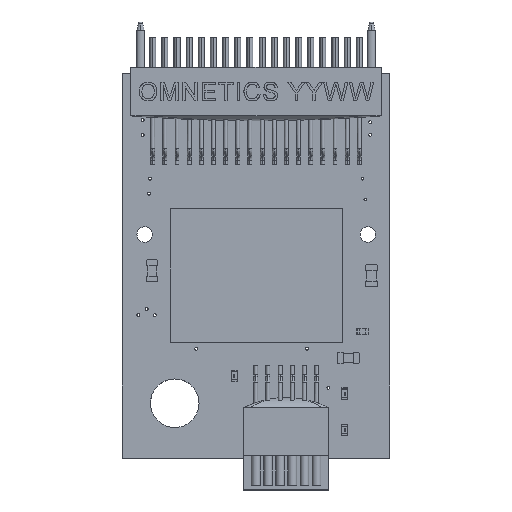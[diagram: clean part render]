
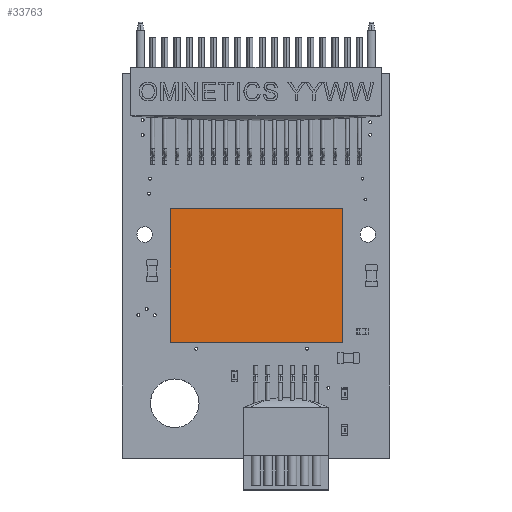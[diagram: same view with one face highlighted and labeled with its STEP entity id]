
A CAD part, top view. The second image highlights one B-rep face of the part: STEP entity #33763.
In plain terms, the highlighted planar face has unit normal (0, 0, 1).
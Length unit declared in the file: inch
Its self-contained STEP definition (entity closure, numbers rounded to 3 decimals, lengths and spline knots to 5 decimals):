
#548 = CARTESIAN_POINT ( 'NONE',  ( -0.17717, 0.1378, 0.04724 ) ) ;
#1053 = DIRECTION ( 'NONE',  ( 1., 0., 0. ) ) ;
#1453 = ORIENTED_EDGE ( 'NONE', *, *, #37528, .T. ) ;
#1852 = VERTEX_POINT ( 'NONE', #548 ) ;
#1971 = CARTESIAN_POINT ( 'NONE',  ( -0.17717, 0.1378, 0.04724 ) ) ;
#2612 = LINE ( 'NONE', #30568, #26918 ) ;
#5040 = FACE_OUTER_BOUND ( 'NONE', #26857, .T. ) ;
#5467 = ORIENTED_EDGE ( 'NONE', *, *, #36144, .T. ) ;
#11179 = VECTOR ( 'NONE', #39425, 39.37008 ) ;
#12543 = CARTESIAN_POINT ( 'NONE',  ( 0.17717, -0.1378, 0.04724 ) ) ;
#12631 = EDGE_CURVE ( 'NONE', #22131, #1852, #39028, .T. ) ;
#15171 = DIRECTION ( 'NONE',  ( 0., 0., 1. ) ) ;
#16580 = VERTEX_POINT ( 'NONE', #55162 ) ;
#22131 = VERTEX_POINT ( 'NONE', #29941 ) ;
#26857 = EDGE_LOOP ( 'NONE', ( #5467, #28355, #1453, #57410 ) ) ;
#26913 = AXIS2_PLACEMENT_3D ( 'NONE', #34199, #15171, #1053 ) ;
#26918 = VECTOR ( 'NONE', #49223, 39.37008 ) ;
#26951 = DIRECTION ( 'NONE',  ( 0., 1., 0. ) ) ;
#28355 = ORIENTED_EDGE ( 'NONE', *, *, #12631, .T. ) ;
#28937 = VECTOR ( 'NONE', #29847, 39.37008 ) ;
#29847 = DIRECTION ( 'NONE',  ( -1., 0., 0. ) ) ;
#29941 = CARTESIAN_POINT ( 'NONE',  ( 0.17717, 0.1378, 0.04724 ) ) ;
#30568 = CARTESIAN_POINT ( 'NONE',  ( -0.17717, -0.1378, 0.04724 ) ) ;
#31901 = VERTEX_POINT ( 'NONE', #42803 ) ;
#33763 = ADVANCED_FACE ( 'NONE', ( #5040 ), #57430, .T. ) ;
#34199 = CARTESIAN_POINT ( 'NONE',  ( 0., 0., 0.04724 ) ) ;
#36144 = EDGE_CURVE ( 'NONE', #16580, #22131, #54528, .T. ) ;
#37528 = EDGE_CURVE ( 'NONE', #1852, #31901, #48592, .T. ) ;
#39028 = LINE ( 'NONE', #57678, #28937 ) ;
#39425 = DIRECTION ( 'NONE',  ( 0., -1., 0. ) ) ;
#39606 = VECTOR ( 'NONE', #26951, 39.37008 ) ;
#42803 = CARTESIAN_POINT ( 'NONE',  ( -0.17717, -0.1378, 0.04724 ) ) ;
#48592 = LINE ( 'NONE', #1971, #11179 ) ;
#49223 = DIRECTION ( 'NONE',  ( 1., 0., 0. ) ) ;
#51768 = EDGE_CURVE ( 'NONE', #31901, #16580, #2612, .T. ) ;
#54528 = LINE ( 'NONE', #12543, #39606 ) ;
#55162 = CARTESIAN_POINT ( 'NONE',  ( 0.17717, -0.1378, 0.04724 ) ) ;
#57410 = ORIENTED_EDGE ( 'NONE', *, *, #51768, .T. ) ;
#57430 = PLANE ( 'NONE',  #26913 ) ;
#57678 = CARTESIAN_POINT ( 'NONE',  ( 0.17717, 0.1378, 0.04724 ) ) ;
